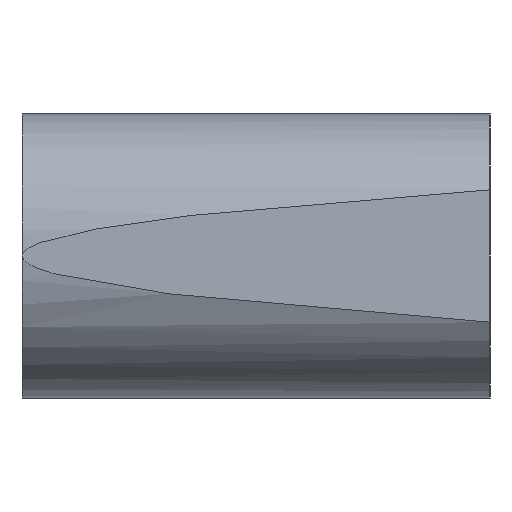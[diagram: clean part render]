
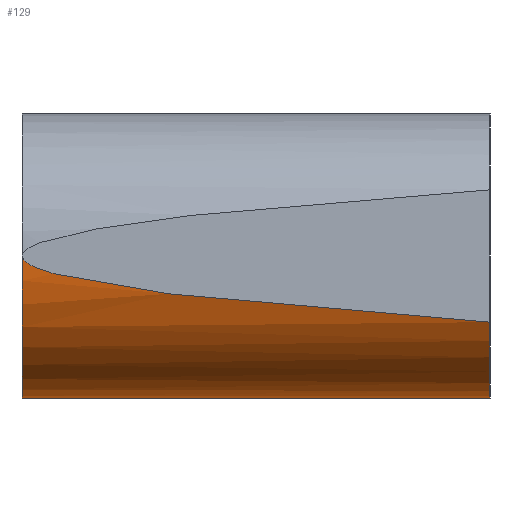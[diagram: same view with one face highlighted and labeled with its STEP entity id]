
A CAD part, left-side view. The second image highlights one B-rep face of the part: STEP entity #129.
In plain terms, the highlighted cylindrical face has radius 8.5 mm (diameter 17 mm), a partial arc.
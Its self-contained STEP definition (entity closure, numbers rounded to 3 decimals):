
#129 = ADVANCED_FACE( '', ( #340 ), #341, .T. );
#139 = EDGE_CURVE( '', #299, #157, #352, .T. );
#157 = VERTEX_POINT( '', #373 );
#177 = EDGE_CURVE( '', #259, #227, #396, .T. );
#227 = VERTEX_POINT( '', #449 );
#259 = VERTEX_POINT( '', #485 );
#269 = EDGE_CURVE( '', #227, #157, #495, .T. );
#295 = EDGE_CURVE( '', #299, #259, #524, .T. );
#299 = VERTEX_POINT( '', #528 );
#340 = FACE_OUTER_BOUND( '', #567, .T. );
#341 = CYLINDRICAL_SURFACE( '', #568, 8.5 );
#352 = LINE( '', #580, #581 );
#373 = CARTESIAN_POINT( '', ( 3.5, 0., -8.5 ) );
#396 = ELLIPSE( '', #636, 243.557, 8.5 );
#449 = CARTESIAN_POINT( '', ( -5., 0., 0. ) );
#485 = CARTESIAN_POINT( '', ( -4.022, -28., -3.958 ) );
#495 = CIRCLE( '', #772, 8.5 );
#524 = CIRCLE( '', #807, 8.5 );
#528 = CARTESIAN_POINT( '', ( 3.5, -28., -8.5 ) );
#567 = EDGE_LOOP( '', ( #854, #855, #856, #857 ) );
#568 = AXIS2_PLACEMENT_3D( '', #858, #859, #860 );
#580 = CARTESIAN_POINT( '', ( 3.5, -28., -8.5 ) );
#581 = VECTOR( '', #869, 1. );
#636 = AXIS2_PLACEMENT_3D( '', #942, #943, #944 );
#772 = AXIS2_PLACEMENT_3D( '', #1024, #1025, #1026 );
#807 = AXIS2_PLACEMENT_3D( '', #1067, #1068, #1069 );
#854 = ORIENTED_EDGE( '', *, *, #177, .T. );
#855 = ORIENTED_EDGE( '', *, *, #269, .T. );
#856 = ORIENTED_EDGE( '', *, *, #139, .F. );
#857 = ORIENTED_EDGE( '', *, *, #295, .T. );
#858 = CARTESIAN_POINT( '', ( 3.5, -28., 0. ) );
#859 = DIRECTION( '', ( 0., -1., 0. ) );
#860 = DIRECTION( '', ( 0., 0., -1. ) );
#869 = DIRECTION( '', ( 0., 1., 0. ) );
#942 = CARTESIAN_POINT( '', ( 3.5, -243.408, 0. ) );
#943 = DIRECTION( '', ( 0.999, 0.035, 0. ) );
#944 = DIRECTION( '', ( -0.035, 0.999, 0. ) );
#1024 = CARTESIAN_POINT( '', ( 3.5, 0., 0. ) );
#1025 = DIRECTION( '', ( 0., -1., 0. ) );
#1026 = DIRECTION( '', ( 0., 0., -1. ) );
#1067 = CARTESIAN_POINT( '', ( 3.5, -28., 0. ) );
#1068 = DIRECTION( '', ( 0., 1., 0. ) );
#1069 = DIRECTION( '', ( 0., 0., -1. ) );
